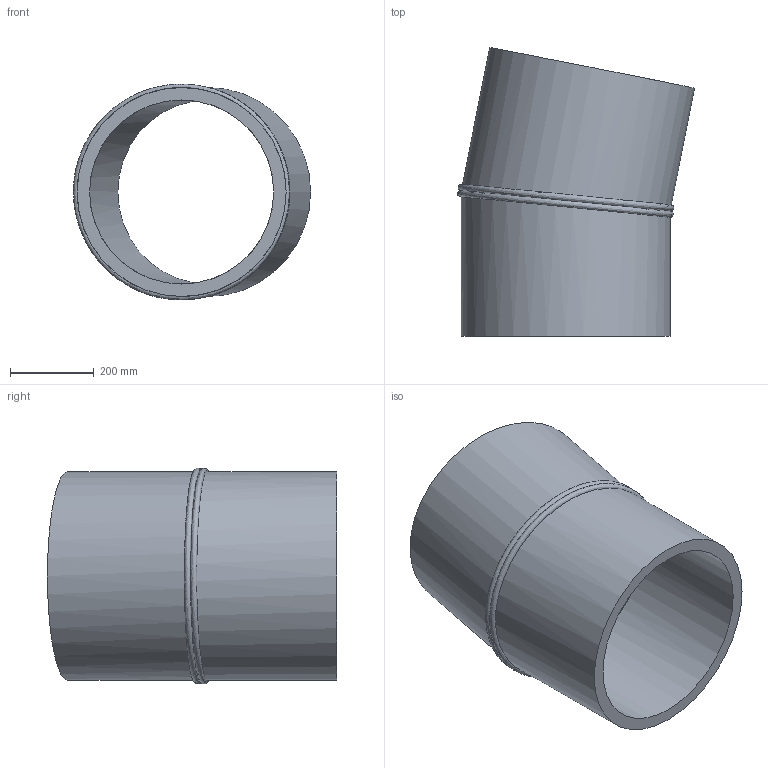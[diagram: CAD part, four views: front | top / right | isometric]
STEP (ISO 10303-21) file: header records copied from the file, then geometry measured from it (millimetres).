
FILE_DESCRIPTION(/* description */ ('Unknown'),/* implementation_level */ '2;1');
FILE_NAME(/* name */ 'Curva 11.25° a settore DE500 SDR17',/* time_stamp */ '2022-07-22T15:24:54+02:00',/* author */ ('Unknown'),/* organization */ ('Unknown'),/* preprocessor_version */ 'ST-DEVELOPER v18.102',/* originating_system */ 'Solid Edge',/* authorisation */ 'Unknown');
FILE_SCHEMA (('AUTOMOTIVE_DESIGN {1 0 10303 214 3 1 1}'));
Length unit declared in the file: millimetre
Products named in the file (2): Curva 11.25° a settore DE500 SDR17; Tubo x Gomito 11.25° DE500 SDR17
Assembly tree (2 placements, depth 2):
  Curva 11.25° a settore DE500 SDR17
    Tubo x Gomito 11.25° DE500 SDR17  x2
Bounding box: 567.48 x 691.78 x 516.45 mm (x, y, z)
Volume: 28806817.3 mm3; surface area: 2128028.8 mm2
Topology: 2 solids, 2 shells, 10 faces, 20 edges, 14 vertices
Faces by surface type: cylinder 4, plane 4, bspline 2
Full cylindrical faces by diameter (mm): 440.6 x2, 500 x2
Entity records: 1223 total; most frequent: CARTESIAN_POINT 1086, DIRECTION 20, ORIENTED_EDGE 10, EDGE_LOOP 10, FACE_BOUND 10, AXIS2_PLACEMENT_3D 10, EDGE_CURVE 5, VERTEX_POINT 5
